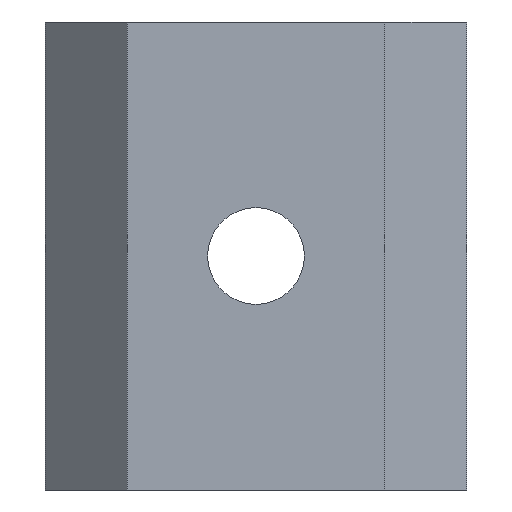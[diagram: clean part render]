
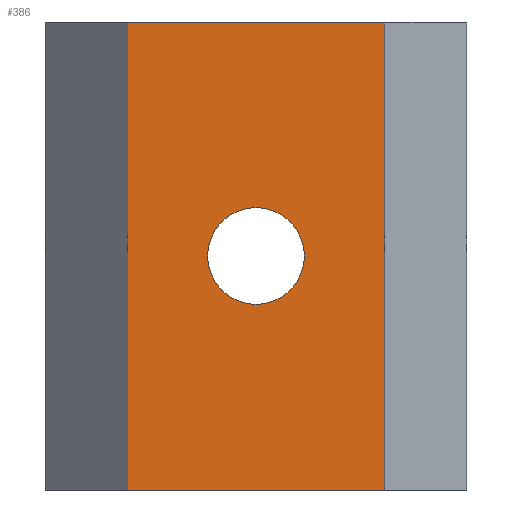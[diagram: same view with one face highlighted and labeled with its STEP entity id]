
A CAD part, front view. The second image highlights one B-rep face of the part: STEP entity #386.
In plain terms, the highlighted planar face has unit normal (0, -1, 0).
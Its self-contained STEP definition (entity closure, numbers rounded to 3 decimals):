
#145=CARTESIAN_POINT('',(11.067,0.0,-10.0));
#146=VERTEX_POINT('',#145);
#147=CARTESIAN_POINT('',(9.0,0.0,-10.0));
#148=DIRECTION('',(0.0,1.0,0.0));
#149=DIRECTION('',(1.0,0.0,0.0));
#150=AXIS2_PLACEMENT_3D('',#147,#148,#149);
#151=CIRCLE('',#150,2.067);
#152=EDGE_CURVE('',#146,#146,#151,.T.);
#318=CARTESIAN_POINT('',(14.5,0.0,-20.0));
#319=VERTEX_POINT('',#318);
#336=CARTESIAN_POINT('',(14.5,0.0,0.0));
#337=VERTEX_POINT('',#336);
#344=CARTESIAN_POINT('',(14.5,0.0,0.0));
#345=DIRECTION('',(0.0,0.0,-1.0));
#346=VECTOR('',#345,20.0);
#347=LINE('',#344,#346);
#348=EDGE_CURVE('',#337,#319,#347,.T.);
#353=CARTESIAN_POINT('',(0.0,0.0,0.0));
#354=DIRECTION('',(0.0,-1.0,0.0));
#355=DIRECTION('',(0.0,0.0,-1.0));
#356=AXIS2_PLACEMENT_3D('',#353,#354,#355);
#357=PLANE('',#356);
#358=ORIENTED_EDGE('',*,*,#348,.F.);
#359=CARTESIAN_POINT('',(3.5,0.0,0.0));
#360=VERTEX_POINT('',#359);
#361=CARTESIAN_POINT('',(3.5,0.0,0.0));
#362=DIRECTION('',(1.0,0.0,0.0));
#363=VECTOR('',#362,11.0);
#364=LINE('',#361,#363);
#365=EDGE_CURVE('',#360,#337,#364,.T.);
#366=ORIENTED_EDGE('',*,*,#365,.F.);
#367=CARTESIAN_POINT('',(3.5,0.0,-20.0));
#368=VERTEX_POINT('',#367);
#369=CARTESIAN_POINT('',(3.5,0.0,-20.0));
#370=DIRECTION('',(0.0,0.0,1.0));
#371=VECTOR('',#370,20.0);
#372=LINE('',#369,#371);
#373=EDGE_CURVE('',#368,#360,#372,.T.);
#374=ORIENTED_EDGE('',*,*,#373,.F.);
#375=CARTESIAN_POINT('',(3.5,0.0,-20.0));
#376=DIRECTION('',(1.0,0.0,0.0));
#377=VECTOR('',#376,11.0);
#378=LINE('',#375,#377);
#379=EDGE_CURVE('',#368,#319,#378,.T.);
#380=ORIENTED_EDGE('',*,*,#379,.T.);
#381=EDGE_LOOP('',(#358,#366,#374,#380));
#382=FACE_OUTER_BOUND('',#381,.T.);
#383=ORIENTED_EDGE('',*,*,#152,.T.);
#384=EDGE_LOOP('',(#383));
#385=FACE_BOUND('',#384,.T.);
#386=ADVANCED_FACE('',(#382,#385),#357,.T.);
